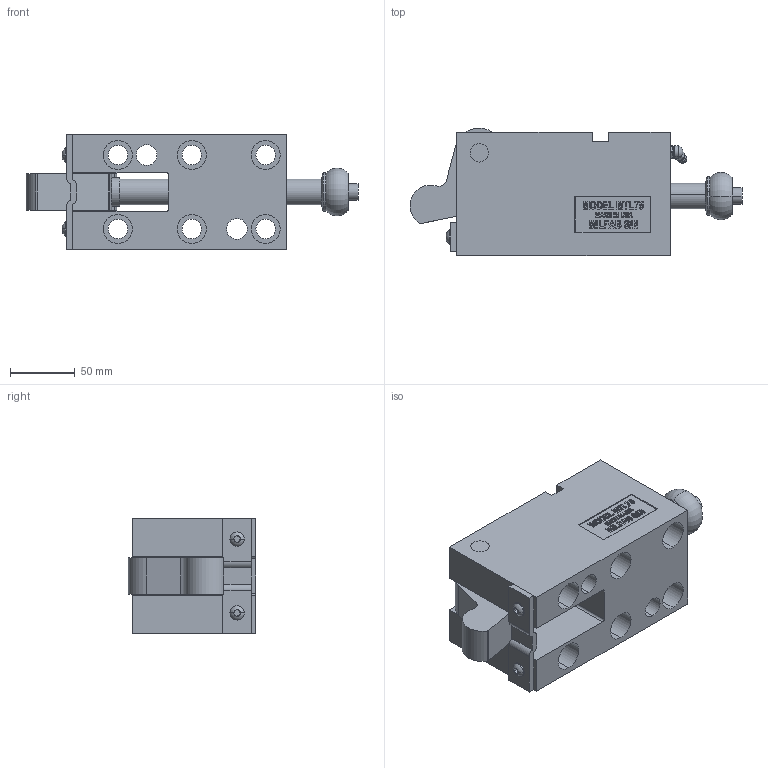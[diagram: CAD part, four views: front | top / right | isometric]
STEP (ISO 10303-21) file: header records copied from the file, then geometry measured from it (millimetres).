
FILE_DESCRIPTION (( 'STEP AP214' ), '1' );
FILE_NAME ('MTL7545-C.STEP', '2014-01-08T19:27:01', ( 'user' ), ( '' ), 'SwSTEP 2.0', 'SolidWorks 2009', '' );
FILE_SCHEMA (( 'AUTOMOTIVE_DESIGN' ));
Length unit declared in the file: inch
Products named in the file (11): MTL75-BODY; MTL7545-C; 75-WASHER; M-I-75-POINT; ML75-PUNCH; 75-100-I-STRAP; 75-87-100 PIVOT PIN; 75 STRIPPER CLOSED; 75-87-100-OFFSET TRIGGER; GREASE ZERK; 1-4 SCREW
Assembly tree (11 placements, depth 2):
  MTL7545-C
    GREASE ZERK
    75-100-I-STRAP
    75-87-100-OFFSET TRIGGER
    MTL75-BODY
    1-4 SCREW  x2
    75 STRIPPER CLOSED
    75-WASHER
    75-87-100 PIVOT PIN
    M-I-75-POINT
    ML75-PUNCH
Bounding box: 256.79 x 98.43 x 88.9 mm (x, y, z)
Volume: 1136171.8 mm3; surface area: 176600.8 mm2
Topology: 11 solids, 11 shells, 591 faces, 1522 edges, 998 vertices
Faces by surface type: plane 354, cylinder 107, bspline 72, cone 32, torus 22, sphere 4
Entity records: 22196 total; most frequent: CARTESIAN_POINT 8092, ORIENTED_EDGE 2956, DIRECTION 2530, EDGE_CURVE 1478, VECTOR 996, LINE 996, VERTEX_POINT 972, AXIS2_PLACEMENT_3D 767
